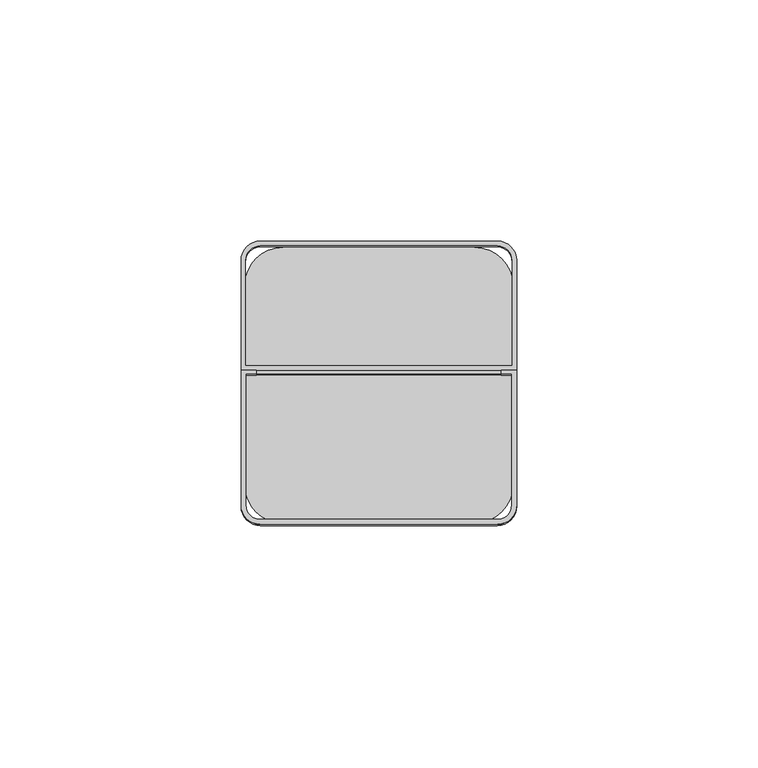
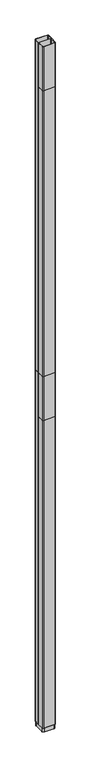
"""IFC4 building model written with IfcOpenShell, lengths in millimetres: proxy geometry, Vertical_Drop_Poles-Wiremold-Blank_Steel_Pole_Extender_10_Feet : 25DTC-E10."""

from ifc_helpers import new_model, si_unit, point, frame, frame_2d, origin, origin_with_axes, place, context, project, spatial, polyline, circle_curve, trimmed, segment, composite_curve, outline, extrude, source, transform, mapped, element, save


def electrical_fixtures_6495d779(model_context):
    return source(origin(), model_context, "Body", "SweptSolid", [
        extrude(outline(composite_curve([segment(polyline([(28.575, 31.2421875), (28.575, 3.2421875)]), True, "CONTINUOUS"), segment(trimmed(circle_curve(frame_2d((24.575, 3.2421875)), 4.0), [point((28.575, 3.2421875))], [point((24.575, -0.7578125))], False, "CARTESIAN"), True, "CONTINUOUS"), segment(polyline([(24.575, -0.7578125), (-24.575, -0.7578125)]), True, "CONTINUOUS"), segment(trimmed(circle_curve(frame_2d((-24.575, 3.2421875)), 4.0), [point((-24.575, -0.7578125))], [point((-28.575, 3.2421875))], False, "CARTESIAN"), True, "CONTINUOUS"), segment(polyline([(-28.575, 3.2421875), (-28.575, 31.2421875), (-25.4, 31.2421875), (-25.4, 30.4421875), (-27.575, 30.4421875), (-27.575, 3.2421875)]), True, "CONTINUOUS"), segment(trimmed(circle_curve(frame_2d((-24.575, 3.2421875)), 3.0), [point((-27.575, 3.2421875))], [point((-24.575, 0.2421875))], True, "CARTESIAN"), True, "CONTINUOUS"), segment(polyline([(-24.575, 0.2421875), (24.575, 0.2421875)]), True, "CONTINUOUS"), segment(trimmed(circle_curve(frame_2d((24.575, 3.2421875)), 3.0), [point((24.575, 0.2421875))], [point((27.575, 3.2421875))], True, "CARTESIAN"), True, "CONTINUOUS"), segment(polyline([(27.575, 3.2421875), (27.575, 30.4421875), (25.4, 30.4421875), (25.4, 31.2421875), (28.575, 31.2421875)]), True, "CONTINUOUS")], self_intersect=False)), frame((0.0, 0.0, 2946.4), z_axis=(0.0, 0.0, 1.0), x_axis=(1.0, 0.0, 0.0)), (0.0, 0.0, 1.0), 203.2),
        extrude(outline(composite_curve([segment(trimmed(circle_curve(frame_2d((24.575, 53.9796875)), 4.0), [point((24.575, 57.9796875))], [point((28.575, 53.9796875))], False, "CARTESIAN"), True, "CONTINUOUS"), segment(polyline([(28.575, 53.9796875), (28.575, 31.2421875), (-28.575, 31.2421875), (-28.575, 53.9796875)]), True, "CONTINUOUS"), segment(trimmed(circle_curve(frame_2d((-24.575, 53.9796875)), 4.0), [point((-28.575, 53.9796875))], [point((-24.575, 57.9796875))], False, "CARTESIAN"), True, "CONTINUOUS"), segment(polyline([(-24.575, 57.9796875), (24.575, 57.9796875)]), True, "CONTINUOUS")], self_intersect=False), holes=[composite_curve([segment(polyline([(27.575, 32.2421875), (27.575, 53.9796875)]), True, "CONTINUOUS"), segment(trimmed(circle_curve(frame_2d((24.575, 53.9796875)), 3.0), [point((27.575, 53.9796875))], [point((24.575, 56.9796875))], True, "CARTESIAN"), True, "CONTINUOUS"), segment(polyline([(24.575, 56.9796875), (-24.575, 56.9796875)]), True, "CONTINUOUS"), segment(trimmed(circle_curve(frame_2d((-24.575, 53.9796875)), 3.0), [point((-24.575, 56.9796875))], [point((-27.575, 53.9796875))], True, "CARTESIAN"), True, "CONTINUOUS"), segment(polyline([(-27.575, 53.9796875), (-27.575, 32.2421875), (27.575, 32.2421875)]), True, "CONTINUOUS")], self_intersect=False)]), frame((0.0, 0.0, 1625.6), z_axis=(0.0, 0.0, 1.0), x_axis=(1.0, 0.0, 0.0)), (0.0, 0.0, 1.0), 1524.0),
        extrude(outline(composite_curve([segment(polyline([(28.575, 31.2421875), (28.575, 3.2421875)]), True, "CONTINUOUS"), segment(trimmed(circle_curve(frame_2d((24.575, 3.2421875)), 4.0), [point((28.575, 3.2421875))], [point((24.575, -0.7578125))], False, "CARTESIAN"), True, "CONTINUOUS"), segment(polyline([(24.575, -0.7578125), (-24.575, -0.7578125)]), True, "CONTINUOUS"), segment(trimmed(circle_curve(frame_2d((-24.575, 3.2421875)), 4.0), [point((-24.575, -0.7578125))], [point((-28.575, 3.2421875))], False, "CARTESIAN"), True, "CONTINUOUS"), segment(polyline([(-28.575, 3.2421875), (-28.575, 31.2421875), (28.575, 31.2421875)]), True, "CONTINUOUS")], self_intersect=False), holes=[composite_curve([segment(polyline([(-27.575, 30.4421875), (-27.575, 3.2421875)]), True, "CONTINUOUS"), segment(trimmed(circle_curve(frame_2d((-24.575, 3.2421875)), 3.0), [point((-27.575, 3.2421875))], [point((-24.575, 0.2421875))], True, "CARTESIAN"), True, "CONTINUOUS"), segment(polyline([(-24.575, 0.2421875), (24.575, 0.2421875)]), True, "CONTINUOUS"), segment(trimmed(circle_curve(frame_2d((24.575, 3.2421875)), 3.0), [point((24.575, 0.2421875))], [point((27.575, 3.2421875))], True, "CARTESIAN"), True, "CONTINUOUS"), segment(polyline([(27.575, 3.2421875), (27.575, 30.4421875), (-27.575, 30.4421875)]), True, "CONTINUOUS")], self_intersect=False)]), frame((0.0, 0.0, 1625.6), z_axis=(0.0, 0.0, 1.0), x_axis=(1.0, 0.0, 0.0)), (0.0, 0.0, 1.0), 1320.8),
        extrude(outline(composite_curve([segment(polyline([(28.575, 31.25), (28.575, 3.25)]), True, "CONTINUOUS"), segment(trimmed(circle_curve(frame_2d((24.575, 3.25)), 4.0), [point((28.575, 3.25))], [point((24.575, -0.75))], False, "CARTESIAN"), True, "CONTINUOUS"), segment(polyline([(24.575, -0.75), (-24.575, -0.75)]), True, "CONTINUOUS"), segment(trimmed(circle_curve(frame_2d((-24.575, 3.25)), 4.0), [point((-24.575, -0.75))], [point((-28.575, 3.25))], False, "CARTESIAN"), True, "CONTINUOUS"), segment(polyline([(-28.575, 3.25), (-28.575, 31.25), (-25.4, 31.25), (-25.4, 30.45), (-27.575, 30.45), (-27.575, 3.25)]), True, "CONTINUOUS"), segment(trimmed(circle_curve(frame_2d((-24.575, 3.25)), 3.0), [point((-27.575, 3.25))], [point((-24.575, 0.25))], True, "CARTESIAN"), True, "CONTINUOUS"), segment(polyline([(-24.575, 0.25), (24.575, 0.25)]), True, "CONTINUOUS"), segment(trimmed(circle_curve(frame_2d((24.575, 3.25)), 3.0), [point((24.575, 0.25))], [point((27.575, 3.25))], True, "CARTESIAN"), True, "CONTINUOUS"), segment(polyline([(27.575, 3.25), (27.575, 30.45), (25.4, 30.45), (25.4, 31.25), (28.575, 31.25)]), True, "CONTINUOUS")], self_intersect=False)), frame((0.0, 0.0, 1422.4), z_axis=(0.0, 0.0, 1.0), x_axis=(1.0, 0.0, 0.0)), (0.0, 0.0, 1.0), 203.2),
        extrude(outline(composite_curve([segment(trimmed(circle_curve(frame_2d((19.825, 49.2375)), 8.0), [point((19.825, 57.2375))], [point((27.825, 49.2375))], False, "CARTESIAN"), True, "CONTINUOUS"), segment(polyline([(27.825, 49.2375), (27.825, 8.0)]), True, "CONTINUOUS"), segment(trimmed(circle_curve(frame_2d((19.825, 8.0)), 8.0), [point((27.825, 8.0))], [point((19.825, 0.0))], False, "CARTESIAN"), True, "CONTINUOUS"), segment(polyline([(19.825, 0.0), (-19.825, 0.0)]), True, "CONTINUOUS"), segment(trimmed(circle_curve(frame_2d((-19.825, 8.0)), 8.0), [point((-19.825, 0.0))], [point((-27.825, 8.0))], False, "CARTESIAN"), True, "CONTINUOUS"), segment(polyline([(-27.825, 8.0), (-27.825, 49.2375)]), True, "CONTINUOUS"), segment(trimmed(circle_curve(frame_2d((-19.825, 49.2375)), 8.0), [point((-27.825, 49.2375))], [point((-19.825, 57.2375))], False, "CARTESIAN"), True, "CONTINUOUS"), segment(polyline([(-19.825, 57.2375), (19.825, 57.2375)]), True, "CONTINUOUS")], self_intersect=False)), frame((0.0, 0.0, -19.0), z_axis=(0.0, 0.0, 1.0), x_axis=(1.0, 0.0, 0.0)), (0.0, 0.0, 1.0), 19.0),
        extrude(outline(composite_curve([segment(trimmed(circle_curve(frame_2d((24.575, 53.9875)), 4.0), [point((24.575, 57.9875))], [point((28.575, 53.9875))], False, "CARTESIAN"), True, "CONTINUOUS"), segment(polyline([(28.575, 53.9875), (28.575, 31.25), (-28.575, 31.25), (-28.575, 53.9875)]), True, "CONTINUOUS"), segment(trimmed(circle_curve(frame_2d((-24.575, 53.9875)), 4.0), [point((-28.575, 53.9875))], [point((-24.575, 57.9875))], False, "CARTESIAN"), True, "CONTINUOUS"), segment(polyline([(-24.575, 57.9875), (24.575, 57.9875)]), True, "CONTINUOUS")], self_intersect=False), holes=[composite_curve([segment(polyline([(27.575, 32.25), (27.575, 53.9875)]), True, "CONTINUOUS"), segment(trimmed(circle_curve(frame_2d((24.575, 53.9875)), 3.0), [point((27.575, 53.9875))], [point((24.575, 56.9875))], True, "CARTESIAN"), True, "CONTINUOUS"), segment(polyline([(24.575, 56.9875), (-24.575, 56.9875)]), True, "CONTINUOUS"), segment(trimmed(circle_curve(frame_2d((-24.575, 53.9875)), 3.0), [point((-24.575, 56.9875))], [point((-27.575, 53.9875))], True, "CARTESIAN"), True, "CONTINUOUS"), segment(polyline([(-27.575, 53.9875), (-27.575, 32.25), (27.575, 32.25)]), True, "CONTINUOUS")], self_intersect=False)]), origin_with_axes(), (0.0, 0.0, 1.0), 1625.6),
        extrude(outline(composite_curve([segment(polyline([(28.575, 31.25), (28.575, 3.25)]), True, "CONTINUOUS"), segment(trimmed(circle_curve(frame_2d((24.575, 3.25)), 4.0), [point((28.575, 3.25))], [point((24.575, -0.75))], False, "CARTESIAN"), True, "CONTINUOUS"), segment(polyline([(24.575, -0.75), (-24.575, -0.75)]), True, "CONTINUOUS"), segment(trimmed(circle_curve(frame_2d((-24.575, 3.25)), 4.0), [point((-24.575, -0.75))], [point((-28.575, 3.25))], False, "CARTESIAN"), True, "CONTINUOUS"), segment(polyline([(-28.575, 3.25), (-28.575, 31.25), (28.575, 31.25)]), True, "CONTINUOUS")], self_intersect=False), holes=[composite_curve([segment(polyline([(-27.575, 30.45), (-27.575, 3.25)]), True, "CONTINUOUS"), segment(trimmed(circle_curve(frame_2d((-24.575, 3.25)), 3.0), [point((-27.575, 3.25))], [point((-24.575, 0.25))], True, "CARTESIAN"), True, "CONTINUOUS"), segment(polyline([(-24.575, 0.25), (24.575, 0.25)]), True, "CONTINUOUS"), segment(trimmed(circle_curve(frame_2d((24.575, 3.25)), 3.0), [point((24.575, 0.25))], [point((27.575, 3.25))], True, "CARTESIAN"), True, "CONTINUOUS"), segment(polyline([(27.575, 3.25), (27.575, 30.45), (-27.575, 30.45)]), True, "CONTINUOUS")], self_intersect=False)]), origin_with_axes(), (0.0, 0.0, 1.0), 1422.4),
    ])


if __name__ == "__main__":
    model = new_model("IFC4")
    model_context = context("Model", 3, world=origin())
    ifc_project = project(units=[si_unit("LENGTHUNIT", "METRE", prefix="MILLI")], contexts=[model_context])
    site = spatial("IfcSite", under=ifc_project)
    building = spatial("IfcBuilding", under=site)
    placement = place(None, origin())
    electrical_fixtures_shape = electrical_fixtures_6495d779(model_context)
    element("IfcBuildingElementProxy", 1, Name="Vertical_Drop_Poles-Wiremold-Blank_Steel_Pole_Extender_10_Feet : 25DTC-E10", ObjectType="Vertical_Drop_Poles-Wiremold-Blank_Steel_Pole_Extender_10_Feet : 25DTC-E10", at=placement, inside=building, context=model_context, shape_type="MappedRepresentation", body=[
        mapped(electrical_fixtures_shape, transform((0.0, 0.0, 0.0), x_axis=(1.0, 0.0, 0.0), y_axis=(0.0, 1.0, 0.0), z_axis=(0.0, 0.0, 1.0))),
    ])
    save(model, "model.ifc")
